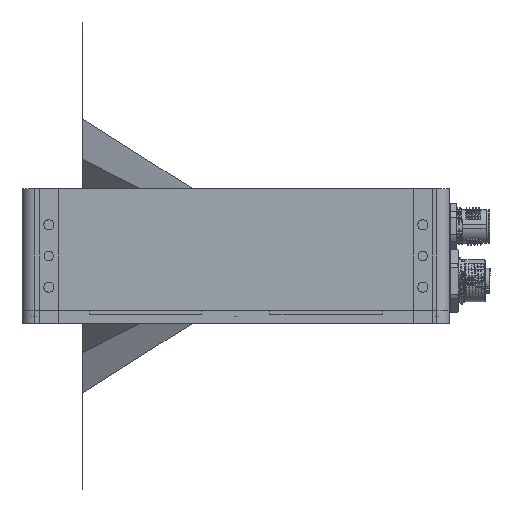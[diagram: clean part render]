
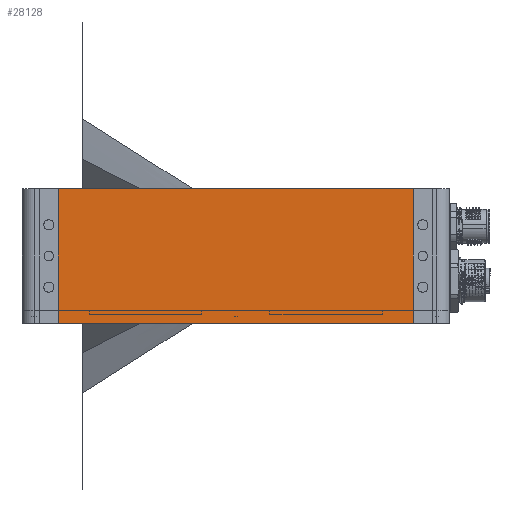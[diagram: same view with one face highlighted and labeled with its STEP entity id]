
A CAD part, front view. The second image highlights one B-rep face of the part: STEP entity #28128.
In plain terms, the highlighted planar face has unit normal (0, -1, 0).
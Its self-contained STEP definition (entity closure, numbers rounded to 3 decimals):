
#2070=PLANE('',#30637);
#3152=LINE('',#43161,#5311);
#3249=LINE('',#43479,#5408);
#3250=LINE('',#43482,#5409);
#3251=LINE('',#43483,#5410);
#5311=VECTOR('',#34769,10.);
#5408=VECTOR('',#35140,10.);
#5409=VECTOR('',#35143,10.);
#5410=VECTOR('',#35144,10.);
#8005=FACE_OUTER_BOUND('',#9806,.T.);
#9806=EDGE_LOOP('',(#21603,#21604,#21605,#21606));
#13268=VERTEX_POINT('',#43158);
#13269=VERTEX_POINT('',#43160);
#13353=VERTEX_POINT('',#43477);
#13354=VERTEX_POINT('',#43481);
#16291=EDGE_CURVE('',#13268,#13269,#3152,.T.);
#16440=EDGE_CURVE('',#13268,#13353,#3249,.T.);
#16441=EDGE_CURVE('',#13354,#13353,#3250,.T.);
#16442=EDGE_CURVE('',#13269,#13354,#3251,.T.);
#21603=ORIENTED_EDGE('',*,*,#16291,.F.);
#21604=ORIENTED_EDGE('',*,*,#16440,.T.);
#21605=ORIENTED_EDGE('',*,*,#16441,.F.);
#21606=ORIENTED_EDGE('',*,*,#16442,.F.);
#28128=ADVANCED_FACE('',(#8005),#2070,.T.);
#30637=AXIS2_PLACEMENT_3D('',#43480,#35141,#35142);
#34769=DIRECTION('',(1.,0.,0.));
#35140=DIRECTION('',(0.,0.,-1.));
#35141=DIRECTION('center_axis',(0.,-1.,0.));
#35142=DIRECTION('ref_axis',(-1.,0.,0.));
#35143=DIRECTION('',(-1.,0.,0.));
#35144=DIRECTION('',(0.,0.,-1.));
#43158=CARTESIAN_POINT('',(11.5,0.,0.));
#43160=CARTESIAN_POINT('',(125.5,0.,0.));
#43161=CARTESIAN_POINT('',(11.5,0.,0.));
#43477=CARTESIAN_POINT('',(11.5,0.,-43.));
#43479=CARTESIAN_POINT('',(11.5,0.,0.));
#43480=CARTESIAN_POINT('Origin',(125.5,0.,0.));
#43481=CARTESIAN_POINT('',(125.5,0.,-43.));
#43482=CARTESIAN_POINT('',(11.5,0.,-43.));
#43483=CARTESIAN_POINT('',(125.5,0.,0.));
